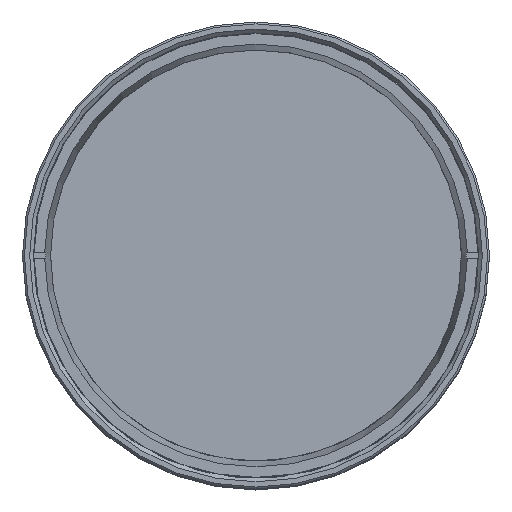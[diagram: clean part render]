
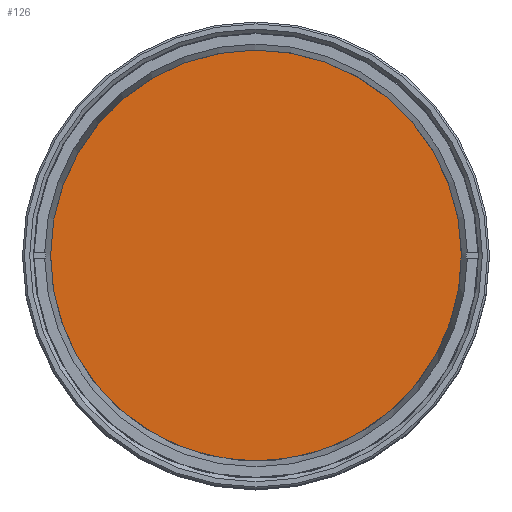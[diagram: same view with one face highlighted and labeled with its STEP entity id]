
A CAD part, top view. The second image highlights one B-rep face of the part: STEP entity #126.
In plain terms, the highlighted planar face has unit normal (0, 0, 1).
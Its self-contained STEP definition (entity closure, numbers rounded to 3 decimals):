
#126 = ADVANCED_FACE ( 'NONE', ( #9587 ), #3722, .F. ) ;
#1560 = DIRECTION ( 'NONE',  ( -1., 0., 0. ) ) ;
#3722 = PLANE ( 'NONE',  #14055 ) ;
#5012 = CARTESIAN_POINT ( 'NONE',  ( 0., 0., 249.238 ) ) ;
#5338 = ORIENTED_EDGE ( 'NONE', *, *, #11721, .F. ) ;
#5368 = EDGE_LOOP ( 'NONE', ( #5338 ) ) ;
#7393 = AXIS2_PLACEMENT_3D ( 'NONE', #7828, #17033, #9160 ) ;
#7478 = VERTEX_POINT ( 'NONE', #16305 ) ;
#7828 = CARTESIAN_POINT ( 'NONE',  ( 0., 0., 249.238 ) ) ;
#9160 = DIRECTION ( 'NONE',  ( -1., 0., 0. ) ) ;
#9587 = FACE_OUTER_BOUND ( 'NONE', #5368, .T. ) ;
#11721 = EDGE_CURVE ( 'NONE', #7478, #7478, #13405, .T. ) ;
#12886 = DIRECTION ( 'NONE',  ( 0., 0., -1. ) ) ;
#13405 = CIRCLE ( 'NONE', #7393, 55.1 ) ;
#14055 = AXIS2_PLACEMENT_3D ( 'NONE', #5012, #12886, #1560 ) ;
#16305 = CARTESIAN_POINT ( 'NONE',  ( -55.1, 0., 249.238 ) ) ;
#17033 = DIRECTION ( 'NONE',  ( 0., 0., -1. ) ) ;
